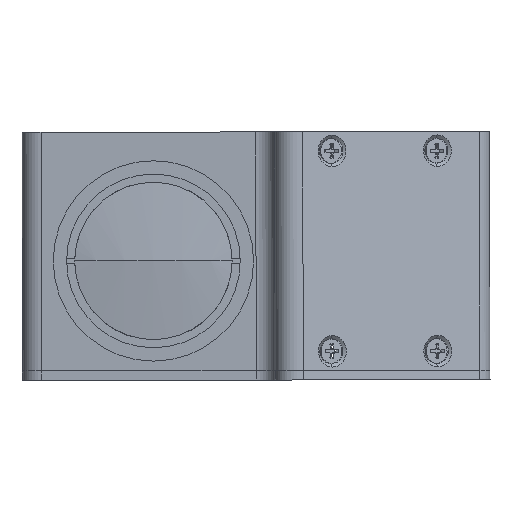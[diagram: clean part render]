
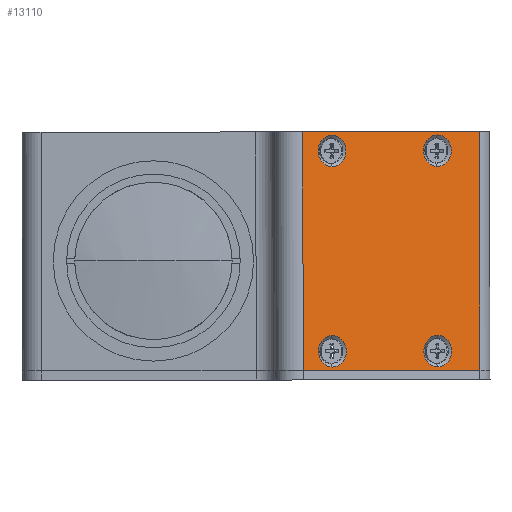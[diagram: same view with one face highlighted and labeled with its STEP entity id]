
A CAD part, left-side view. The second image highlights one B-rep face of the part: STEP entity #13110.
In plain terms, the highlighted planar face has unit normal (-0.883, -0.469, 0.001).
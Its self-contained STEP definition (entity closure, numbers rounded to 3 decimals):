
#101 = ORIENTED_EDGE ( 'NONE', *, *, #3547, .F. ) ;
#160 = DIRECTION ( 'NONE',  ( -0.883, -0.469, 0.001 ) ) ;
#165 = EDGE_CURVE ( 'NONE', #3954, #869, #407, .T. ) ;
#198 = CARTESIAN_POINT ( 'NONE',  ( 64.341, -68.415, -22.89 ) ) ;
#384 = EDGE_CURVE ( 'NONE', #1876, #12827, #7463, .T. ) ;
#406 = CARTESIAN_POINT ( 'NONE',  ( 64.341, -68.375, 2.11 ) ) ;
#407 = CIRCLE ( 'NONE', #3015, 3.3 ) ;
#543 = EDGE_CURVE ( 'NONE', #1639, #2514, #2764, .T. ) ;
#562 = CARTESIAN_POINT ( 'NONE',  ( 59.646, -59.511, 23.095 ) ) ;
#704 = DIRECTION ( 'NONE',  ( -0.469, 0.883, -0.001 ) ) ;
#736 = DIRECTION ( 'NONE',  ( -0.883, -0.469, 0.001 ) ) ;
#773 = EDGE_CURVE ( 'NONE', #11102, #4419, #12145, .T. ) ;
#840 = ORIENTED_EDGE ( 'NONE', *, *, #384, .F. ) ;
#846 = VECTOR ( 'NONE', #9085, 1000. ) ;
#869 = VERTEX_POINT ( 'NONE', #3505 ) ;
#950 = EDGE_LOOP ( 'NONE', ( #5330, #6444 ) ) ;
#961 = EDGE_CURVE ( 'NONE', #5049, #4900, #10271, .T. ) ;
#1229 = AXIS2_PLACEMENT_3D ( 'NONE', #2442, #9660, #2495 ) ;
#1509 = FACE_BOUND ( 'NONE', #3617, .T. ) ;
#1639 = VERTEX_POINT ( 'NONE', #4425 ) ;
#1753 = DIRECTION ( 'NONE',  ( 0., 0.002, 1. ) ) ;
#1794 = DIRECTION ( 'NONE',  ( 0., 0.002, 1. ) ) ;
#1869 = FACE_BOUND ( 'NONE', #10423, .T. ) ;
#1876 = VERTEX_POINT ( 'NONE', #12012 ) ;
#1944 = DIRECTION ( 'NONE',  ( -0.883, -0.469, 0.001 ) ) ;
#1957 = CARTESIAN_POINT ( 'NONE',  ( 47.909, -37.505, -18.94 ) ) ;
#2087 = EDGE_CURVE ( 'NONE', #7461, #3323, #2340, .T. ) ;
#2149 = ORIENTED_EDGE ( 'NONE', *, *, #3229, .F. ) ;
#2174 = AXIS2_PLACEMENT_3D ( 'NONE', #8258, #8206, #8151 ) ;
#2187 = EDGE_CURVE ( 'NONE', #5049, #3323, #6809, .T. ) ;
#2340 = LINE ( 'NONE', #406, #7925 ) ;
#2442 = CARTESIAN_POINT ( 'NONE',  ( 54.554, -49.968, 2.08 ) ) ;
#2495 = DIRECTION ( 'NONE',  ( 0., 0.002, 1. ) ) ;
#2514 = VERTEX_POINT ( 'NONE', #7671 ) ;
#2566 = EDGE_CURVE ( 'NONE', #7461, #4900, #8695, .T. ) ;
#2764 = CIRCLE ( 'NONE', #3215, 3.3 ) ;
#3015 = AXIS2_PLACEMENT_3D ( 'NONE', #12852, #12758, #12752 ) ;
#3114 = EDGE_CURVE ( 'NONE', #4419, #11102, #14452, .T. ) ;
#3215 = AXIS2_PLACEMENT_3D ( 'NONE', #1957, #1944, #1794 ) ;
#3229 = EDGE_CURVE ( 'NONE', #2514, #1639, #6782, .T. ) ;
#3323 = VERTEX_POINT ( 'NONE', #9252 ) ;
#3505 = CARTESIAN_POINT ( 'NONE',  ( 59.646, -59.506, 26.395 ) ) ;
#3547 = EDGE_CURVE ( 'NONE', #12827, #1876, #8661, .T. ) ;
#3617 = EDGE_LOOP ( 'NONE', ( #101, #840 ) ) ;
#3719 = EDGE_CURVE ( 'NONE', #869, #3954, #12742, .T. ) ;
#3948 = ORIENTED_EDGE ( 'NONE', *, *, #543, .F. ) ;
#3954 = VERTEX_POINT ( 'NONE', #6922 ) ;
#4013 = DIRECTION ( 'NONE',  ( -0.883, -0.469, 0.001 ) ) ;
#4291 = DIRECTION ( 'NONE',  ( 0., -0.002, -1. ) ) ;
#4419 = VERTEX_POINT ( 'NONE', #10318 ) ;
#4425 = CARTESIAN_POINT ( 'NONE',  ( 47.909, -37.51, -22.24 ) ) ;
#4781 = AXIS2_PLACEMENT_3D ( 'NONE', #11231, #4013, #12428 ) ;
#4786 = DIRECTION ( 'NONE',  ( 0., 0.002, 1. ) ) ;
#4898 = CARTESIAN_POINT ( 'NONE',  ( 59.646, -59.579, -18.904 ) ) ;
#4900 = VERTEX_POINT ( 'NONE', #10634 ) ;
#4912 = DIRECTION ( 'NONE',  ( -0.883, -0.469, 0.001 ) ) ;
#5049 = VERTEX_POINT ( 'NONE', #14154 ) ;
#5330 = ORIENTED_EDGE ( 'NONE', *, *, #3114, .F. ) ;
#5883 = VECTOR ( 'NONE', #704, 1000. ) ;
#6064 = PLANE ( 'NONE',  #1229 ) ;
#6338 = CARTESIAN_POINT ( 'NONE',  ( 47.909, -37.443, 19.76 ) ) ;
#6444 = ORIENTED_EDGE ( 'NONE', *, *, #773, .F. ) ;
#6764 = AXIS2_PLACEMENT_3D ( 'NONE', #4898, #4912, #4786 ) ;
#6782 = CIRCLE ( 'NONE', #12799, 3.3 ) ;
#6809 = LINE ( 'NONE', #7903, #846 ) ;
#6922 = CARTESIAN_POINT ( 'NONE',  ( 59.646, -59.517, 19.796 ) ) ;
#7002 = ORIENTED_EDGE ( 'NONE', *, *, #2566, .F. ) ;
#7091 = VECTOR ( 'NONE', #4291, 1000. ) ;
#7281 = CARTESIAN_POINT ( 'NONE',  ( 59.646, -59.579, -18.904 ) ) ;
#7461 = VERTEX_POINT ( 'NONE', #198 ) ;
#7463 = CIRCLE ( 'NONE', #6764, 3.3 ) ;
#7671 = CARTESIAN_POINT ( 'NONE',  ( 47.909, -37.5, -15.64 ) ) ;
#7864 = CARTESIAN_POINT ( 'NONE',  ( 47.909, -37.505, -18.94 ) ) ;
#7903 = CARTESIAN_POINT ( 'NONE',  ( 67.582, -74.43, 27.119 ) ) ;
#7925 = VECTOR ( 'NONE', #9953, 1000. ) ;
#8151 = DIRECTION ( 'NONE',  ( 0., 0.002, 1. ) ) ;
#8206 = DIRECTION ( 'NONE',  ( -0.883, -0.469, 0.001 ) ) ;
#8258 = CARTESIAN_POINT ( 'NONE',  ( 47.909, -37.438, 23.06 ) ) ;
#8511 = DIRECTION ( 'NONE',  ( 0., 0.002, 1. ) ) ;
#8661 = CIRCLE ( 'NONE', #11741, 3.3 ) ;
#8695 = LINE ( 'NONE', #9068, #5883 ) ;
#8929 = DIRECTION ( 'NONE',  ( -0.883, -0.469, 0.001 ) ) ;
#9068 = CARTESIAN_POINT ( 'NONE',  ( 67.582, -74.51, -22.881 ) ) ;
#9085 = DIRECTION ( 'NONE',  ( 0.469, -0.883, 0.001 ) ) ;
#9098 = DIRECTION ( 'NONE',  ( 0., 0.002, 1. ) ) ;
#9109 = CARTESIAN_POINT ( 'NONE',  ( 44.651, -31.344, 2.05 ) ) ;
#9252 = CARTESIAN_POINT ( 'NONE',  ( 64.341, -68.334, 27.11 ) ) ;
#9267 = ORIENTED_EDGE ( 'NONE', *, *, #2087, .T. ) ;
#9607 = ORIENTED_EDGE ( 'NONE', *, *, #3719, .F. ) ;
#9660 = DIRECTION ( 'NONE',  ( -0.883, -0.469, 0.001 ) ) ;
#9953 = DIRECTION ( 'NONE',  ( 0., 0.002, 1. ) ) ;
#9989 = ORIENTED_EDGE ( 'NONE', *, *, #2187, .F. ) ;
#10271 = LINE ( 'NONE', #9109, #7091 ) ;
#10318 = CARTESIAN_POINT ( 'NONE',  ( 47.909, -37.432, 26.36 ) ) ;
#10371 = EDGE_LOOP ( 'NONE', ( #9607, #11672 ) ) ;
#10423 = EDGE_LOOP ( 'NONE', ( #2149, #3948 ) ) ;
#10578 = ORIENTED_EDGE ( 'NONE', *, *, #961, .T. ) ;
#10634 = CARTESIAN_POINT ( 'NONE',  ( 44.651, -31.384, -22.95 ) ) ;
#10645 = AXIS2_PLACEMENT_3D ( 'NONE', #562, #8929, #1753 ) ;
#10680 = FACE_OUTER_BOUND ( 'NONE', #12271, .T. ) ;
#11038 = FACE_BOUND ( 'NONE', #10371, .T. ) ;
#11102 = VERTEX_POINT ( 'NONE', #6338 ) ;
#11231 = CARTESIAN_POINT ( 'NONE',  ( 47.909, -37.438, 23.06 ) ) ;
#11672 = ORIENTED_EDGE ( 'NONE', *, *, #165, .F. ) ;
#11741 = AXIS2_PLACEMENT_3D ( 'NONE', #7281, #160, #8511 ) ;
#12012 = CARTESIAN_POINT ( 'NONE',  ( 59.646, -59.584, -22.204 ) ) ;
#12145 = CIRCLE ( 'NONE', #2174, 3.3 ) ;
#12271 = EDGE_LOOP ( 'NONE', ( #7002, #9267, #9989, #10578 ) ) ;
#12428 = DIRECTION ( 'NONE',  ( 0., 0.002, 1. ) ) ;
#12742 = CIRCLE ( 'NONE', #10645, 3.3 ) ;
#12752 = DIRECTION ( 'NONE',  ( 0., 0.002, 1. ) ) ;
#12758 = DIRECTION ( 'NONE',  ( -0.883, -0.469, 0.001 ) ) ;
#12799 = AXIS2_PLACEMENT_3D ( 'NONE', #7864, #736, #9098 ) ;
#12827 = VERTEX_POINT ( 'NONE', #13816 ) ;
#12852 = CARTESIAN_POINT ( 'NONE',  ( 59.646, -59.511, 23.095 ) ) ;
#13110 = ADVANCED_FACE ( 'NONE', ( #11038, #1509, #1869, #13716, #10680 ), #6064, .T. ) ;
#13716 = FACE_BOUND ( 'NONE', #950, .T. ) ;
#13816 = CARTESIAN_POINT ( 'NONE',  ( 59.646, -59.574, -15.604 ) ) ;
#14154 = CARTESIAN_POINT ( 'NONE',  ( 44.651, -31.304, 27.05 ) ) ;
#14452 = CIRCLE ( 'NONE', #4781, 3.3 ) ;
